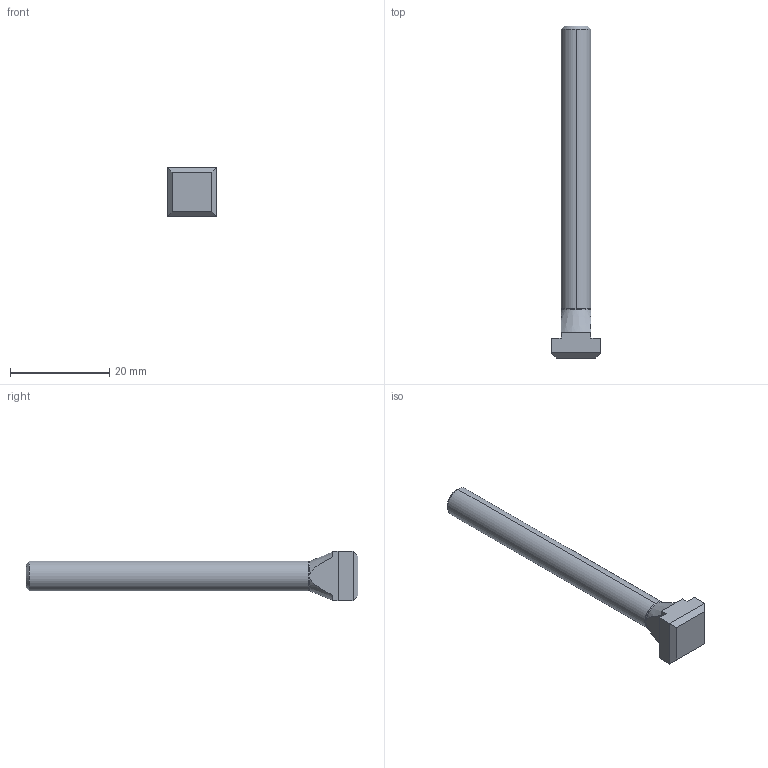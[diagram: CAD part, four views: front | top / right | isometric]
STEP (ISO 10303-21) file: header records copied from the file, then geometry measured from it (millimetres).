
FILE_DESCRIPTION (( 'STEP AP203' ), '1' );
FILE_NAME ('Wiberger-din787_6-m6x63.step', '2016-07-01T13:16:50', ( 'Magnus' ), ( 'Microsoft' ), 'SwSTEP 2.0', 'SolidWorks 2016', '' );
FILE_SCHEMA (( 'CONFIG_CONTROL_DESIGN' ));
Length unit declared in the file: millimetre
Products named in the file (1): Wiberger-din787_6-m6x63
Bounding box: 10 x 67 x 10 mm (x, y, z)
Volume: 2260.1 mm3; surface area: 1532.6 mm2
Topology: 1 solids, 1 shells, 28 faces, 70 edges, 44 vertices
Faces by surface type: plane 18, cone 5, cylinder 5
Entity records: 953 total; most frequent: CARTESIAN_POINT 207, ORIENTED_EDGE 140, DIRECTION 138, EDGE_CURVE 70, AXIS2_PLACEMENT_3D 47, LINE 44, VERTEX_POINT 44, VECTOR 44
